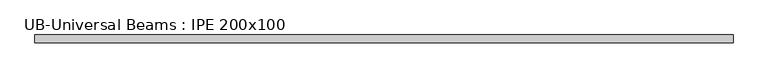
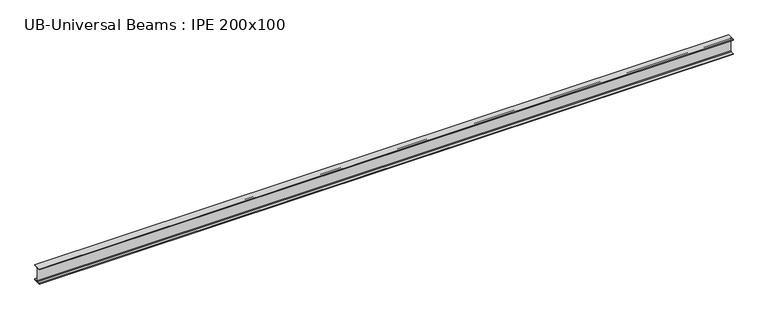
"""IFC4 building model written with IfcOpenShell, lengths in millimetres: beam geometry, UB-Universal Beams : IPE 200x100."""

import ifcopenshell
import ifcopenshell.guid

model = None  # the IFC model being written
_history = None  # IfcOwnerHistory: only IFC2X3 demands one
_inside = {}  # id of a spatial element -> (the spatial element, [elements in it])
_under = {}  # id of a project, library or spatial element -> (it, [spatial elements below it])
_declared = {}  # id of a project -> (the project, [libraries it declares])
_typed = {}  # id of a type object -> (the type object, [elements of that type])
_made_of = {}  # id of a material, layer set ... -> (it, [elements and type objects made of it])


def new_model(schema):
    """Start an empty IFC model of exactly this schema.

    Asked for "IFC4X3", IfcOpenShell would pick the latest addendum, in which some entities
    have other attributes; the version numbers below select the first issue.
    IFC2X3 requires an IfcOwnerHistory on every rooted entity: one is made here for all.
    """
    global model, _history
    if schema == "IFC4X3":
        model = ifcopenshell.file(schema_version=(4, 3, 0, 0))
    else:
        model = ifcopenshell.file(schema=schema)
    _inside.clear()
    _under.clear()
    _declared.clear()
    _typed.clear()
    _made_of.clear()
    _history = None
    if model.schema == "IFC2X3":
        org = make("IfcOrganization", Name="unknown")
        user = make(
            "IfcPersonAndOrganization",
            ThePerson=make("IfcPerson", FamilyName="unknown"),
            TheOrganization=org,
        )
        app = make(
            "IfcApplication",
            ApplicationDeveloper=org,
            Version="unknown",
            ApplicationFullName="unknown",
            ApplicationIdentifier="unknown",
        )
        _history = make(
            "IfcOwnerHistory",
            OwningUser=user,
            OwningApplication=app,
            ChangeAction="ADDED",
            CreationDate=0,
        )
    return model


def make(cls, **values):
    """One entity of the class cls with the attributes given. An attribute that is None is left unset."""
    return model.create_entity(
        cls, **{name: value for name, value in values.items() if value is not None}
    )


def rooted(cls, **values):
    """An entity with a GlobalId (a new one), such as an element, a storey or a relation."""
    return make(cls, GlobalId=ifcopenshell.guid.new(), OwnerHistory=_history, **values)


def si_unit(unit_type, name, prefix=None):
    """IfcSIUnit, for example si_unit("LENGTHUNIT", "METRE", prefix="MILLI")."""
    return make("IfcSIUnit", UnitType=unit_type, Prefix=prefix, Name=name)


def assignment(units):
    """IfcUnitAssignment: the units of a project."""
    return None if units is None else make("IfcUnitAssignment", Units=units)


def point(xyz):
    """IfcCartesianPoint."""
    return None if xyz is None else make("IfcCartesianPoint", Coordinates=xyz)


def direction(xyz):
    """IfcDirection."""
    return None if xyz is None else make("IfcDirection", DirectionRatios=xyz)


def frame(location, z_axis=None, x_axis=None):
    """IfcAxis2Placement3D, a coordinate frame: its origin and axes. An axis left out is left unset."""
    return make(
        "IfcAxis2Placement3D",
        Location=point(location),
        Axis=direction(z_axis),
        RefDirection=direction(x_axis),
    )


def frame_2d(location, x_axis=None):
    """IfcAxis2Placement2D, a coordinate frame in the plane: its origin and x axis."""
    return make(
        "IfcAxis2Placement2D", Location=point(location), RefDirection=direction(x_axis)
    )


def origin():
    """The frame at (0, 0, 0) with its axes left unset."""
    return frame((0.0, 0.0, 0.0))


def place(relative_to, where):
    """IfcLocalPlacement: puts the frame where relative to a parent placement (None: the world)."""
    return make(
        "IfcLocalPlacement", PlacementRelTo=relative_to, RelativePlacement=where
    )


def context(
    kind, dimensions, precision=None, world=None, true_north=None, identifier=None
):
    """IfcGeometricRepresentationContext, for example the 3D "Model" context."""
    return make(
        "IfcGeometricRepresentationContext",
        ContextIdentifier=identifier,
        ContextType=kind,
        CoordinateSpaceDimension=dimensions,
        Precision=precision,
        WorldCoordinateSystem=world,
        TrueNorth=true_north,
    )


def project(units=None, contexts=None):
    """IfcProject with its units and contexts."""
    return rooted(
        "IfcProject",
        Name="project",
        RepresentationContexts=contexts,
        UnitsInContext=assignment(units),
    )


def spatial(cls, under=None, at=None, **own):
    """A site, building, storey or space (cls), placed at a placement, below another one or the project."""
    s = rooted(cls, ObjectPlacement=at, **own)
    if under is not None:
        _under.setdefault(under.id(), (under, []))[1].append(s)
    return s


def polyline(points):
    """IfcPolyline through the points."""
    return make("IfcPolyline", Points=[point(p) for p in points])


def circle_curve(where, radius):
    """IfcCircle in the frame where."""
    return make("IfcCircle", Position=where, Radius=radius)


def trimmed(basis, trim1, trim2, sense, master):
    """IfcTrimmedCurve: the piece of a basis curve between two trims."""
    return make(
        "IfcTrimmedCurve",
        BasisCurve=basis,
        Trim1=trim1,
        Trim2=trim2,
        SenseAgreement=sense,
        MasterRepresentation=master,
    )


def segment(curve, same_sense, transition):
    """IfcCompositeCurveSegment."""
    return make(
        "IfcCompositeCurveSegment",
        Transition=transition,
        SameSense=same_sense,
        ParentCurve=curve,
    )


def composite_curve(segments, self_intersect=None):
    """IfcCompositeCurve: segments joined end to end."""
    return make("IfcCompositeCurve", Segments=segments, SelfIntersect=self_intersect)


def outline(outer, holes=None, kind="AREA"):
    """IfcArbitraryClosedProfileDef: a profile drawn as a closed curve; with holes, ...WithVoids."""
    if holes is None:
        return make("IfcArbitraryClosedProfileDef", ProfileType=kind, OuterCurve=outer)
    return make(
        "IfcArbitraryProfileDefWithVoids",
        ProfileType=kind,
        OuterCurve=outer,
        InnerCurves=holes,
    )


def extrude(swept, where, along, depth):
    """IfcExtrudedAreaSolid: the profile swept, set in the frame where, extruded along a direction by depth."""
    return make(
        "IfcExtrudedAreaSolid",
        SweptArea=swept,
        Position=where,
        ExtrudedDirection=direction(along),
        Depth=depth,
    )


def shape(context_of_items, identifier, shape_type, items):
    """IfcShapeRepresentation: the items that make up one representation, for example the "Body"."""
    return make(
        "IfcShapeRepresentation",
        ContextOfItems=context_of_items,
        RepresentationIdentifier=identifier,
        RepresentationType=shape_type,
        Items=items,
    )


def source(mapping_origin, context_of_items, identifier, shape_type, items):
    """IfcRepresentationMap: a shape defined once, which mapped items show again and again."""
    return make(
        "IfcRepresentationMap",
        MappingOrigin=mapping_origin,
        MappedRepresentation=shape(context_of_items, identifier, shape_type, items),
    )


def transform(
    local_origin,
    x_axis=None,
    y_axis=None,
    z_axis=None,
    scale=None,
    scale2=None,
    scale3=None,
    uniform=True,
):
    """IfcCartesianTransformationOperator3D, or its non-uniform kind. x_axis, y_axis, z_axis: its Axis1, 2, 3."""
    if uniform:
        return make(
            "IfcCartesianTransformationOperator3D",
            Axis1=direction(x_axis),
            Axis2=direction(y_axis),
            LocalOrigin=point(local_origin),
            Scale=scale,
            Axis3=direction(z_axis),
        )
    return make(
        "IfcCartesianTransformationOperator3DnonUniform",
        Axis1=direction(x_axis),
        Axis2=direction(y_axis),
        LocalOrigin=point(local_origin),
        Scale=scale,
        Axis3=direction(z_axis),
        Scale2=scale2,
        Scale3=scale3,
    )


def mapped(mapping_source, mapping_target):
    """IfcMappedItem: shows the shape of a source again, moved by a transform."""
    return make(
        "IfcMappedItem", MappingSource=mapping_source, MappingTarget=mapping_target
    )


def made_of(thing, what):
    """Note that an element or type object is made of a material, layer set ...; save() writes the relation."""
    if what is not None:
        _made_of.setdefault(what.id(), (what, []))[1].append(thing)
    return thing


def element(
    cls,
    number,
    at=None,
    inside=None,
    cuts=None,
    type_object=None,
    material=None,
    context=None,
    identifier="Body",
    shape_type=None,
    held_by="IfcProductDefinitionShape",
    body=None,
    shapes=None,
    **own,
):
    """One element of the class cls, such as IfcWall. Its Tag is "e" and its number.

    at: its placement. inside: the storey or other place that contains it. cuts: it is an
    opening in that element (IfcRelVoidsElement). A single representation is given by context,
    identifier, shape_type and body (its items); several are given by shapes. held_by: the class
    of the entity that holds the representations. save() writes the other relations.
    """
    e = rooted(cls, Tag="e%d" % number, ObjectPlacement=at, **own)
    if body is not None:
        shapes = [shape(context, identifier, shape_type, body)]
    if shapes is not None:
        e.Representation = make(held_by, Representations=shapes)
    if inside is not None:
        _inside.setdefault(inside.id(), (inside, []))[1].append(e)
    if cuts is not None:
        rooted(
            "IfcRelVoidsElement", RelatingBuildingElement=cuts, RelatedOpeningElement=e
        )
    if type_object is not None:
        _typed.setdefault(type_object.id(), (type_object, []))[1].append(e)
    return made_of(e, material)


def aggregate(whole, parts):
    """IfcRelAggregates: a whole, such as a stair, and the parts it consists of."""
    return rooted("IfcRelAggregates", RelatingObject=whole, RelatedObjects=parts)


def save(model, path):
    """Write the relations noted so far, then the file.

    IfcRelAggregates (storeys below a building ...), IfcRelContainedInSpatialStructure (elements
    in a storey), IfcRelDefinesByType, IfcRelAssociatesMaterial and IfcRelDeclares: one each for
    every whole, place, type object, material and project.
    """
    for whole, parts in _under.values():
        aggregate(whole, parts)
    for where, things in _inside.values():
        rooted(
            "IfcRelContainedInSpatialStructure",
            RelatedElements=things,
            RelatingStructure=where,
        )
    for kind, things in _typed.values():
        rooted("IfcRelDefinesByType", RelatedObjects=things, RelatingType=kind)
    for what, things in _made_of.values():
        rooted("IfcRelAssociatesMaterial", RelatedObjects=things, RelatingMaterial=what)
    for by, libraries in _declared.values():
        rooted("IfcRelDeclares", RelatingContext=by, RelatedDefinitions=libraries)
    model.write(path)


def ub_universal_beams_ipe_200x100_e371353f(model_context):
    return source(origin(), model_context, "Body", "SweptSolid", [
        extrude(outline(composite_curve([segment(polyline([(-50.0, -89.8), (-11.9, -89.8)]), True, "CONTINUOUS"), segment(trimmed(circle_curve(frame_2d((-11.9, -80.9)), 8.9), [point((-11.9, -89.8))], [point((-3.0, -80.9))], True, "CARTESIAN"), True, "CONTINUOUS"), segment(polyline([(-3.0, -80.9), (-3.0, 80.9)]), True, "CONTINUOUS"), segment(trimmed(circle_curve(frame_2d((-11.9, 80.9)), 8.9), [point((-3.0, 80.9))], [point((-11.9, 89.8))], True, "CARTESIAN"), True, "CONTINUOUS"), segment(polyline([(-11.9, 89.8), (-50.0, 89.8), (-50.0, 100.0), (50.0, 100.0), (50.0, 89.8), (11.9, 89.8)]), True, "CONTINUOUS"), segment(trimmed(circle_curve(frame_2d((11.9, 80.9)), 8.9), [point((11.9, 89.8))], [point((3.0, 80.9))], True, "CARTESIAN"), True, "CONTINUOUS"), segment(polyline([(3.0, 80.9), (3.0, -80.9)]), True, "CONTINUOUS"), segment(trimmed(circle_curve(frame_2d((11.9, -80.9)), 8.9), [point((3.0, -80.9))], [point((11.9, -89.8))], True, "CARTESIAN"), True, "CONTINUOUS"), segment(polyline([(11.9, -89.8), (50.0, -89.8), (50.0, -100.0), (-50.0, -100.0), (-50.0, -89.8)]), True, "CONTINUOUS")], self_intersect=False)), frame((-4575.85, 0.0, 0.0), z_axis=(1.0, 0.0, 0.0), x_axis=(0.0, 1.0, 0.0)), (0.0, 0.0, 1.0), 8776.7),
    ])


if __name__ == "__main__":
    model = new_model("IFC4")
    model_context = context("Model", 3, world=origin())
    ifc_project = project(units=[si_unit("LENGTHUNIT", "METRE", prefix="MILLI")], contexts=[model_context])
    site = spatial("IfcSite", under=ifc_project)
    building = spatial("IfcBuilding", under=site)
    placement = place(None, origin())
    ub_universal_beams_ipe_200x100_shape = ub_universal_beams_ipe_200x100_e371353f(model_context)
    element("IfcBeam", 1, ObjectType="UB-Universal Beams : IPE 200x100", at=placement, inside=building, context=model_context, shape_type="MappedRepresentation", body=[
        mapped(ub_universal_beams_ipe_200x100_shape, transform((0.0, 0.0, 0.0), x_axis=(1.0, 0.0, 0.0), y_axis=(0.0, 1.0, 0.0), z_axis=(0.0, 0.0, 1.0))),
    ])
    save(model, "model.ifc")
